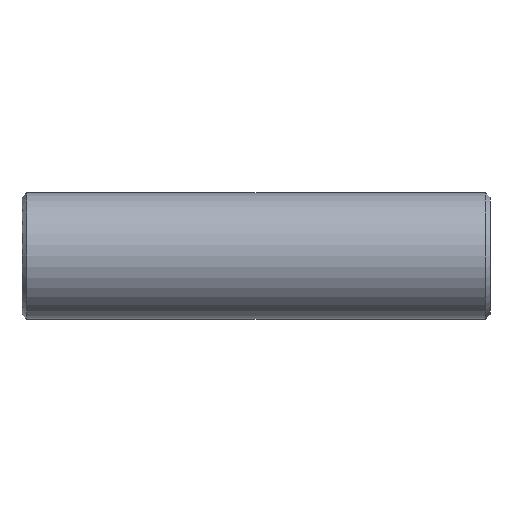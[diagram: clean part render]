
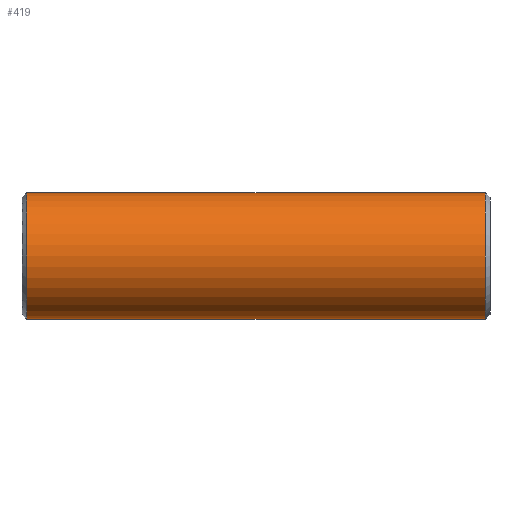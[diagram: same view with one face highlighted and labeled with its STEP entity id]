
A CAD part, front view. The second image highlights one B-rep face of the part: STEP entity #419.
In plain terms, the highlighted cylindrical face has radius 13 mm (diameter 26 mm), a partial arc.
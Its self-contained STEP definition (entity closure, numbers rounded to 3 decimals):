
#231=CARTESIAN_POINT('Vertex',(1.,0.,-13.)) ;
#238=CARTESIAN_POINT('Vertex',(1.,0.,13.)) ;
#267=CARTESIAN_POINT('Axis2P3D Location',(1.,0.,0.)) ;
#271=CARTESIAN_POINT('Vertex',(1.,-13.,0.)) ;
#274=CARTESIAN_POINT('Axis2P3D Location',(1.,0.,0.)) ;
#359=CARTESIAN_POINT('Line Origine',(96.,0.,13.)) ;
#363=CARTESIAN_POINT('Vertex',(95.,0.,13.)) ;
#377=CARTESIAN_POINT('Vertex',(95.,0.,-13.)) ;
#380=CARTESIAN_POINT('Line Origine',(96.,0.,-13.)) ;
#394=CARTESIAN_POINT('Axis2P3D Location',(96.,0.,0.)) ;
#399=CARTESIAN_POINT('Axis2P3D Location',(95.,0.,0.)) ;
#403=CARTESIAN_POINT('Vertex',(95.,-13.,0.)) ;
#406=CARTESIAN_POINT('Axis2P3D Location',(95.,0.,0.)) ;
#268=DIRECTION('Axis2P3D Direction',(1.,0.,-0.)) ;
#275=DIRECTION('Axis2P3D Direction',(1.,0.,-0.)) ;
#360=DIRECTION('Vector Direction',(-1.,0.,0.)) ;
#381=DIRECTION('Vector Direction',(-1.,0.,0.)) ;
#395=DIRECTION('Axis2P3D Direction',(-1.,-0.,-0.)) ;
#396=DIRECTION('Axis2P3D XDirection',(0.,0.,-1.)) ;
#400=DIRECTION('Axis2P3D Direction',(-1.,-0.,-0.)) ;
#407=DIRECTION('Axis2P3D Direction',(-1.,-0.,-0.)) ;
#269=AXIS2_PLACEMENT_3D('Circle Axis2P3D',#267,#268,$) ;
#276=AXIS2_PLACEMENT_3D('Circle Axis2P3D',#274,#275,$) ;
#397=AXIS2_PLACEMENT_3D('Cylinder Axis2P3D',#394,#395,#396) ;
#401=AXIS2_PLACEMENT_3D('Circle Axis2P3D',#399,#400,$) ;
#408=AXIS2_PLACEMENT_3D('Circle Axis2P3D',#406,#407,$) ;
#412=ORIENTED_EDGE('',*,*,#384,.T.) ;
#413=ORIENTED_EDGE('',*,*,#405,.F.) ;
#414=ORIENTED_EDGE('',*,*,#410,.F.) ;
#415=ORIENTED_EDGE('',*,*,#365,.T.) ;
#416=ORIENTED_EDGE('',*,*,#278,.T.) ;
#417=ORIENTED_EDGE('',*,*,#273,.T.) ;
#361=VECTOR('Line Direction',#360,1.) ;
#382=VECTOR('Line Direction',#381,1.) ;
#419=ADVANCED_FACE('352-18X96',(#418),#398,.T.) ;
#270=CIRCLE('generated circle',#269,13.) ;
#277=CIRCLE('generated circle',#276,13.) ;
#402=CIRCLE('generated circle',#401,13.) ;
#409=CIRCLE('generated circle',#408,13.) ;
#398=CYLINDRICAL_SURFACE('generated cylinder',#397,13.) ;
#273=EDGE_CURVE('',#272,#232,#270,.T.) ;
#278=EDGE_CURVE('',#239,#272,#277,.T.) ;
#365=EDGE_CURVE('',#364,#239,#362,.T.) ;
#384=EDGE_CURVE('',#232,#378,#383,.F.) ;
#405=EDGE_CURVE('',#404,#378,#402,.F.) ;
#410=EDGE_CURVE('',#364,#404,#409,.F.) ;
#411=EDGE_LOOP('',(#412,#413,#414,#415,#416,#417)) ;
#418=FACE_OUTER_BOUND('',#411,.T.) ;
#362=LINE('Line',#359,#361) ;
#383=LINE('Line',#380,#382) ;
#232=VERTEX_POINT('',#231) ;
#239=VERTEX_POINT('',#238) ;
#272=VERTEX_POINT('',#271) ;
#364=VERTEX_POINT('',#363) ;
#378=VERTEX_POINT('',#377) ;
#404=VERTEX_POINT('',#403) ;
